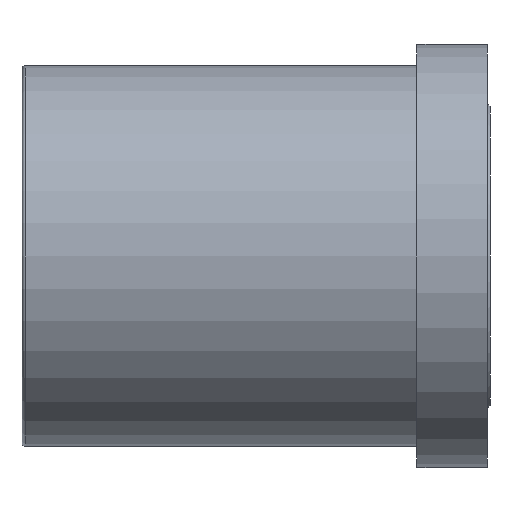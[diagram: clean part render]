
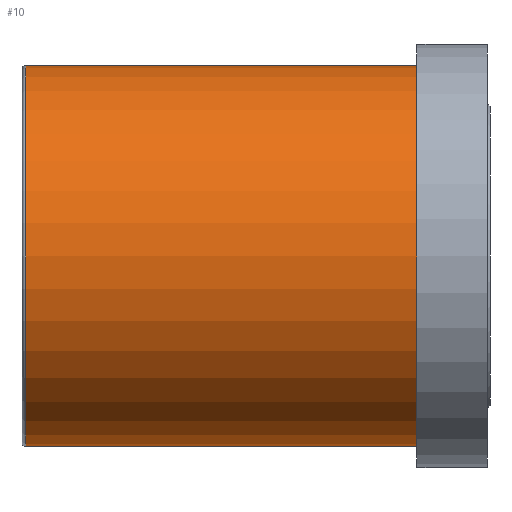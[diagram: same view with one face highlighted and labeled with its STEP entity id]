
A CAD part, left-side view. The second image highlights one B-rep face of the part: STEP entity #10.
In plain terms, the highlighted cylindrical face has radius 27 mm (diameter 54 mm), a partial arc.
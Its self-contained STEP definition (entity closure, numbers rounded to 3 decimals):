
#10 = ADVANCED_FACE ( 'NONE', ( #153 ), #72, .T. ) ;
#36 = VERTEX_POINT ( 'NONE', #142 ) ;
#39 = CARTESIAN_POINT ( 'NONE',  ( 0., 0., -27. ) ) ;
#62 = ORIENTED_EDGE ( 'NONE', *, *, #67, .T. ) ;
#67 = EDGE_CURVE ( 'NONE', #376, #36, #482, .T. ) ;
#71 = DIRECTION ( 'NONE',  ( 0., 0., -1. ) ) ;
#72 = CYLINDRICAL_SURFACE ( 'NONE', #228, 27. ) ;
#93 = VERTEX_POINT ( 'NONE', #339 ) ;
#111 = EDGE_CURVE ( 'NONE', #93, #198, #128, .T. ) ;
#128 = CIRCLE ( 'NONE', #323, 27. ) ;
#142 = CARTESIAN_POINT ( 'NONE',  ( 0., 55.5, -27. ) ) ;
#143 = EDGE_LOOP ( 'NONE', ( #420, #62, #204, #165 ) ) ;
#150 = DIRECTION ( 'NONE',  ( 0., 0., -1. ) ) ;
#153 = FACE_OUTER_BOUND ( 'NONE', #143, .T. ) ;
#165 = ORIENTED_EDGE ( 'NONE', *, *, #111, .F. ) ;
#185 = VECTOR ( 'NONE', #316, 1000. ) ;
#198 = VERTEX_POINT ( 'NONE', #39 ) ;
#204 = ORIENTED_EDGE ( 'NONE', *, *, #366, .T. ) ;
#228 = AXIS2_PLACEMENT_3D ( 'NONE', #350, #256, #266 ) ;
#256 = DIRECTION ( 'NONE',  ( 0., -1., 0. ) ) ;
#266 = DIRECTION ( 'NONE',  ( 0., 0., -1. ) ) ;
#283 = EDGE_CURVE ( 'NONE', #376, #93, #488, .T. ) ;
#287 = DIRECTION ( 'NONE',  ( 0., -1., 0. ) ) ;
#289 = CARTESIAN_POINT ( 'NONE',  ( 0., 55.5, 0. ) ) ;
#300 = DIRECTION ( 'NONE',  ( 0., -1., 0. ) ) ;
#303 = CARTESIAN_POINT ( 'NONE',  ( 0., 55.5, 27. ) ) ;
#316 = DIRECTION ( 'NONE',  ( 0., -1., 0. ) ) ;
#323 = AXIS2_PLACEMENT_3D ( 'NONE', #454, #484, #150 ) ;
#339 = CARTESIAN_POINT ( 'NONE',  ( 0., 0., 27. ) ) ;
#342 = VECTOR ( 'NONE', #300, 1000. ) ;
#350 = CARTESIAN_POINT ( 'NONE',  ( 0., 0., 0. ) ) ;
#366 = EDGE_CURVE ( 'NONE', #36, #198, #451, .T. ) ;
#376 = VERTEX_POINT ( 'NONE', #303 ) ;
#396 = AXIS2_PLACEMENT_3D ( 'NONE', #289, #287, #71 ) ;
#420 = ORIENTED_EDGE ( 'NONE', *, *, #283, .F. ) ;
#451 = LINE ( 'NONE', #461, #342 ) ;
#454 = CARTESIAN_POINT ( 'NONE',  ( 0., 0., 0. ) ) ;
#461 = CARTESIAN_POINT ( 'NONE',  ( 0., 0., -27. ) ) ;
#472 = CARTESIAN_POINT ( 'NONE',  ( 0., 0., 27. ) ) ;
#482 = CIRCLE ( 'NONE', #396, 27. ) ;
#484 = DIRECTION ( 'NONE',  ( 0., -1., 0. ) ) ;
#488 = LINE ( 'NONE', #472, #185 ) ;
